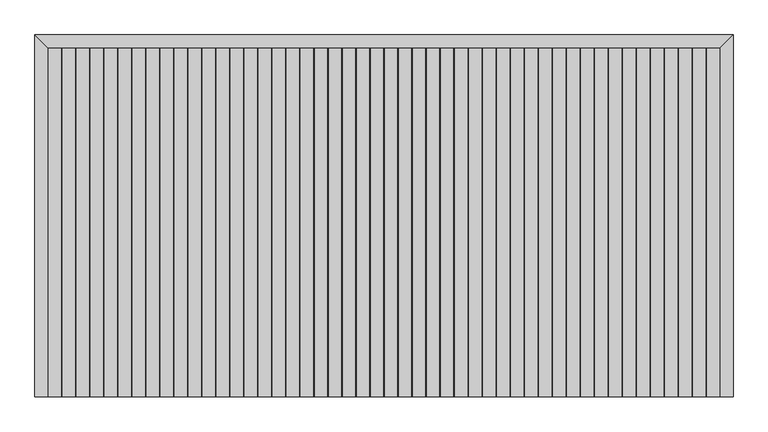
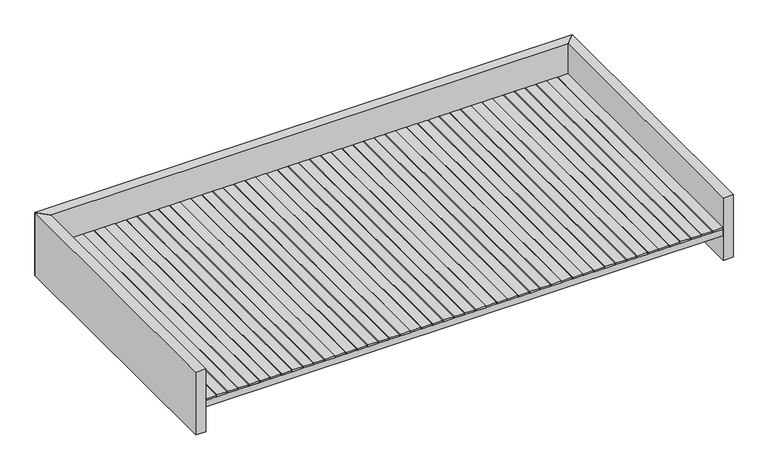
"""IFC4 building model written with IfcOpenShell, lengths in millimetres: proxy geometry, FOUNDATION^ADMIN 1_42x81 STRAIGHT FRONT TRANSACTION-PARTS SOLID."""

from ifc_helpers import new_model, si_unit, frame, origin, origin_with_axes, place, context, project, spatial, polyline, outline, extrude, source, transform, mapped, element, save


def generic_models_9b6093a6(model_context):
    return source(origin(), model_context, "Body", "SweptSolid", [
        extrude(outline(polyline([(39.6875, 1028.7), (77.7875, 1028.7), (77.7875, 0.0), (39.6875, 0.0), (39.6875, 1028.7)])), frame((0.0, 0.0, 127.0), z_axis=(0.0, 0.0, 1.0), x_axis=(1.0, 0.0, 0.0)), (0.0, 0.0, 1.0), 6.35),
        extrude(outline(polyline([(80.9625, 1028.7), (119.0625, 1028.7), (119.0625, 0.0), (80.9625, 0.0), (80.9625, 1028.7)])), frame((0.0, 0.0, 127.0), z_axis=(0.0, 0.0, 1.0), x_axis=(1.0, 0.0, 0.0)), (0.0, 0.0, 1.0), 6.35),
        extrude(outline(polyline([(122.2375, 1028.7), (160.3375, 1028.7), (160.3375, 0.0), (122.2375, 0.0), (122.2375, 1028.7)])), frame((0.0, 0.0, 127.0), z_axis=(0.0, 0.0, 1.0), x_axis=(1.0, 0.0, 0.0)), (0.0, 0.0, 1.0), 6.35),
        extrude(outline(polyline([(163.5125, 1028.7), (201.6125, 1028.7), (201.6125, 0.0), (163.5125, 0.0), (163.5125, 1028.7)])), frame((0.0, 0.0, 127.0), z_axis=(0.0, 0.0, 1.0), x_axis=(1.0, 0.0, 0.0)), (0.0, 0.0, 1.0), 6.35),
        extrude(outline(polyline([(204.7875, 1028.7), (242.8875, 1028.7), (242.8875, 0.0), (204.7875, 0.0), (204.7875, 1028.7)])), frame((0.0, 0.0, 127.0), z_axis=(0.0, 0.0, 1.0), x_axis=(1.0, 0.0, 0.0)), (0.0, 0.0, 1.0), 6.35),
        extrude(outline(polyline([(246.0625, 1028.7), (284.1625, 1028.7), (284.1625, 0.0), (246.0625, 0.0), (246.0625, 1028.7)])), frame((0.0, 0.0, 127.0), z_axis=(0.0, 0.0, 1.0), x_axis=(1.0, 0.0, 0.0)), (0.0, 0.0, 1.0), 6.35),
        extrude(outline(polyline([(287.3375, 1028.7), (325.4375, 1028.7), (325.4375, 0.0), (287.3375, 0.0), (287.3375, 1028.7)])), frame((0.0, 0.0, 127.0), z_axis=(0.0, 0.0, 1.0), x_axis=(1.0, 0.0, 0.0)), (0.0, 0.0, 1.0), 6.35),
        extrude(outline(polyline([(328.6125, 1028.7), (366.7125, 1028.7), (366.7125, 0.0), (328.6125, 0.0), (328.6125, 1028.7)])), frame((0.0, 0.0, 127.0), z_axis=(0.0, 0.0, 1.0), x_axis=(1.0, 0.0, 0.0)), (0.0, 0.0, 1.0), 6.35),
        extrude(outline(polyline([(369.8875, 1028.7), (407.9875, 1028.7), (407.9875, 0.0), (369.8875, 0.0), (369.8875, 1028.7)])), frame((0.0, 0.0, 127.0), z_axis=(0.0, 0.0, 1.0), x_axis=(1.0, 0.0, 0.0)), (0.0, 0.0, 1.0), 6.35),
        extrude(outline(polyline([(411.1625, 1028.7), (449.2625, 1028.7), (449.2625, 0.0), (411.1625, 0.0), (411.1625, 1028.7)])), frame((0.0, 0.0, 127.0), z_axis=(0.0, 0.0, 1.0), x_axis=(1.0, 0.0, 0.0)), (0.0, 0.0, 1.0), 6.35),
        extrude(outline(polyline([(452.4375, 1028.7), (490.5375, 1028.7), (490.5375, 0.0), (452.4375, 0.0), (452.4375, 1028.7)])), frame((0.0, 0.0, 127.0), z_axis=(0.0, 0.0, 1.0), x_axis=(1.0, 0.0, 0.0)), (0.0, 0.0, 1.0), 6.35),
        extrude(outline(polyline([(493.7125, 1028.7), (531.8125, 1028.7), (531.8125, 0.0), (493.7125, 0.0), (493.7125, 1028.7)])), frame((0.0, 0.0, 127.0), z_axis=(0.0, 0.0, 1.0), x_axis=(1.0, 0.0, 0.0)), (0.0, 0.0, 1.0), 6.35),
        extrude(outline(polyline([(534.9875, 1028.7), (573.0875, 1028.7), (573.0875, 0.0), (534.9875, 0.0), (534.9875, 1028.7)])), frame((0.0, 0.0, 127.0), z_axis=(0.0, 0.0, 1.0), x_axis=(1.0, 0.0, 0.0)), (0.0, 0.0, 1.0), 6.35),
        extrude(outline(polyline([(576.2625, 1028.7), (614.3625, 1028.7), (614.3625, 0.0), (576.2625, 0.0), (576.2625, 1028.7)])), frame((0.0, 0.0, 127.0), z_axis=(0.0, 0.0, 1.0), x_axis=(1.0, 0.0, 0.0)), (0.0, 0.0, 1.0), 6.35),
        extrude(outline(polyline([(617.5375, 1028.7), (655.6375, 1028.7), (655.6375, 0.0), (617.5375, 0.0), (617.5375, 1028.7)])), frame((0.0, 0.0, 127.0), z_axis=(0.0, 0.0, 1.0), x_axis=(1.0, 0.0, 0.0)), (0.0, 0.0, 1.0), 6.35),
        extrude(outline(polyline([(658.8125, 1028.7), (696.9125, 1028.7), (696.9125, 0.0), (658.8125, 0.0), (658.8125, 1028.7)])), frame((0.0, 0.0, 127.0), z_axis=(0.0, 0.0, 1.0), x_axis=(1.0, 0.0, 0.0)), (0.0, 0.0, 1.0), 6.35),
        extrude(outline(polyline([(700.0875, 1028.7), (738.1875, 1028.7), (738.1875, 0.0), (700.0875, 0.0), (700.0875, 1028.7)])), frame((0.0, 0.0, 127.0), z_axis=(0.0, 0.0, 1.0), x_axis=(1.0, 0.0, 0.0)), (0.0, 0.0, 1.0), 6.35),
        extrude(outline(polyline([(741.3625, 1028.7), (779.4625, 1028.7), (779.4625, 0.0), (741.3625, 0.0), (741.3625, 1028.7)])), frame((0.0, 0.0, 127.0), z_axis=(0.0, 0.0, 1.0), x_axis=(1.0, 0.0, 0.0)), (0.0, 0.0, 1.0), 6.35),
        extrude(outline(polyline([(782.6375, 1028.7), (820.7375, 1028.7), (820.7375, 0.0), (782.6375, 0.0), (782.6375, 1028.7)])), frame((0.0, 0.0, 127.0), z_axis=(0.0, 0.0, 1.0), x_axis=(1.0, 0.0, 0.0)), (0.0, 0.0, 1.0), 6.35),
        extrude(outline(polyline([(823.9125, 1028.7), (862.0125, 1028.7), (862.0125, 0.0), (823.9125, 0.0), (823.9125, 1028.7)])), frame((0.0, 0.0, 127.0), z_axis=(0.0, 0.0, 1.0), x_axis=(1.0, 0.0, 0.0)), (0.0, 0.0, 1.0), 6.35),
        extrude(outline(polyline([(865.1875, 1028.7), (903.2875, 1028.7), (903.2875, 0.0), (865.1875, 0.0), (865.1875, 1028.7)])), frame((0.0, 0.0, 127.0), z_axis=(0.0, 0.0, 1.0), x_axis=(1.0, 0.0, 0.0)), (0.0, 0.0, 1.0), 6.35),
        extrude(outline(polyline([(906.4625, 1028.7), (944.5625, 1028.7), (944.5625, 0.0), (906.4625, 0.0), (906.4625, 1028.7)])), frame((0.0, 0.0, 127.0), z_axis=(0.0, 0.0, 1.0), x_axis=(1.0, 0.0, 0.0)), (0.0, 0.0, 1.0), 6.35),
        extrude(outline(polyline([(947.7375, 1028.7), (985.8375, 1028.7), (985.8375, 0.0), (947.7375, 0.0), (947.7375, 1028.7)])), frame((0.0, 0.0, 127.0), z_axis=(0.0, 0.0, 1.0), x_axis=(1.0, 0.0, 0.0)), (0.0, 0.0, 1.0), 6.35),
        extrude(outline(polyline([(989.0125, 1028.7), (1027.1125, 1028.7), (1027.1125, 0.0), (989.0125, 0.0), (989.0125, 1028.7)])), frame((0.0, 0.0, 127.0), z_axis=(0.0, 0.0, 1.0), x_axis=(1.0, 0.0, 0.0)), (0.0, 0.0, 1.0), 6.35),
        extrude(outline(polyline([(1030.2875, 1028.7), (1068.3875, 1028.7), (1068.3875, 0.0), (1030.2875, 0.0), (1030.2875, 1028.7)])), frame((0.0, 0.0, 127.0), z_axis=(0.0, 0.0, 1.0), x_axis=(1.0, 0.0, 0.0)), (0.0, 0.0, 1.0), 6.35),
        extrude(outline(polyline([(1071.5625, 1028.7), (1109.6625, 1028.7), (1109.6625, 0.0), (1071.5625, 0.0), (1071.5625, 1028.7)])), frame((0.0, 0.0, 127.0), z_axis=(0.0, 0.0, 1.0), x_axis=(1.0, 0.0, 0.0)), (0.0, 0.0, 1.0), 6.35),
        extrude(outline(polyline([(1112.8375, 1028.7), (1150.9375, 1028.7), (1150.9375, 0.0), (1112.8375, 0.0), (1112.8375, 1028.7)])), frame((0.0, 0.0, 127.0), z_axis=(0.0, 0.0, 1.0), x_axis=(1.0, 0.0, 0.0)), (0.0, 0.0, 1.0), 6.35),
        extrude(outline(polyline([(1154.1125, 1028.7), (1192.2125, 1028.7), (1192.2125, 0.0), (1154.1125, 0.0), (1154.1125, 1028.7)])), frame((0.0, 0.0, 127.0), z_axis=(0.0, 0.0, 1.0), x_axis=(1.0, 0.0, 0.0)), (0.0, 0.0, 1.0), 6.35),
        extrude(outline(polyline([(1195.3875, 1028.7), (1233.4875, 1028.7), (1233.4875, 0.0), (1195.3875, 0.0), (1195.3875, 1028.7)])), frame((0.0, 0.0, 127.0), z_axis=(0.0, 0.0, 1.0), x_axis=(1.0, 0.0, 0.0)), (0.0, 0.0, 1.0), 6.35),
        extrude(outline(polyline([(1236.6625, 1028.7), (1274.7625, 1028.7), (1274.7625, 0.0), (1236.6625, 0.0), (1236.6625, 1028.7)])), frame((0.0, 0.0, 127.0), z_axis=(0.0, 0.0, 1.0), x_axis=(1.0, 0.0, 0.0)), (0.0, 0.0, 1.0), 6.35),
        extrude(outline(polyline([(1277.9375, 1028.7), (1316.0375, 1028.7), (1316.0375, 0.0), (1277.9375, 0.0), (1277.9375, 1028.7)])), frame((0.0, 0.0, 127.0), z_axis=(0.0, 0.0, 1.0), x_axis=(1.0, 0.0, 0.0)), (0.0, 0.0, 1.0), 6.35),
        extrude(outline(polyline([(1319.2125, 1028.7), (1357.3125, 1028.7), (1357.3125, 0.0), (1319.2125, 0.0), (1319.2125, 1028.7)])), frame((0.0, 0.0, 127.0), z_axis=(0.0, 0.0, 1.0), x_axis=(1.0, 0.0, 0.0)), (0.0, 0.0, 1.0), 6.35),
        extrude(outline(polyline([(1360.4875, 1028.7), (1398.5875, 1028.7), (1398.5875, 0.0), (1360.4875, 0.0), (1360.4875, 1028.7)])), frame((0.0, 0.0, 127.0), z_axis=(0.0, 0.0, 1.0), x_axis=(1.0, 0.0, 0.0)), (0.0, 0.0, 1.0), 6.35),
        extrude(outline(polyline([(1401.7625, 1028.7), (1439.8625, 1028.7), (1439.8625, 0.0), (1401.7625, 0.0), (1401.7625, 1028.7)])), frame((0.0, 0.0, 127.0), z_axis=(0.0, 0.0, 1.0), x_axis=(1.0, 0.0, 0.0)), (0.0, 0.0, 1.0), 6.35),
        extrude(outline(polyline([(1443.0375, 1028.7), (1481.1375, 1028.7), (1481.1375, 0.0), (1443.0375, 0.0), (1443.0375, 1028.7)])), frame((0.0, 0.0, 127.0), z_axis=(0.0, 0.0, 1.0), x_axis=(1.0, 0.0, 0.0)), (0.0, 0.0, 1.0), 6.35),
        extrude(outline(polyline([(1484.3125, 1028.7), (1522.4125, 1028.7), (1522.4125, 0.0), (1484.3125, 0.0), (1484.3125, 1028.7)])), frame((0.0, 0.0, 127.0), z_axis=(0.0, 0.0, 1.0), x_axis=(1.0, 0.0, 0.0)), (0.0, 0.0, 1.0), 6.35),
        extrude(outline(polyline([(1525.5875, 1028.7), (1563.6875, 1028.7), (1563.6875, 0.0), (1525.5875, 0.0), (1525.5875, 1028.7)])), frame((0.0, 0.0, 127.0), z_axis=(0.0, 0.0, 1.0), x_axis=(1.0, 0.0, 0.0)), (0.0, 0.0, 1.0), 6.35),
        extrude(outline(polyline([(1566.8625, 1028.7), (1604.9625, 1028.7), (1604.9625, 0.0), (1566.8625, 0.0), (1566.8625, 1028.7)])), frame((0.0, 0.0, 127.0), z_axis=(0.0, 0.0, 1.0), x_axis=(1.0, 0.0, 0.0)), (0.0, 0.0, 1.0), 6.35),
        extrude(outline(polyline([(1608.1375, 1028.7), (1646.2375, 1028.7), (1646.2375, 0.0), (1608.1375, 0.0), (1608.1375, 1028.7)])), frame((0.0, 0.0, 127.0), z_axis=(0.0, 0.0, 1.0), x_axis=(1.0, 0.0, 0.0)), (0.0, 0.0, 1.0), 6.35),
        extrude(outline(polyline([(1649.4125, 1028.7), (1687.5125, 1028.7), (1687.5125, 0.0), (1649.4125, 0.0), (1649.4125, 1028.7)])), frame((0.0, 0.0, 127.0), z_axis=(0.0, 0.0, 1.0), x_axis=(1.0, 0.0, 0.0)), (0.0, 0.0, 1.0), 6.35),
        extrude(outline(polyline([(1690.6875, 1028.7), (1728.7875, 1028.7), (1728.7875, 0.0), (1690.6875, 0.0), (1690.6875, 1028.7)])), frame((0.0, 0.0, 127.0), z_axis=(0.0, 0.0, 1.0), x_axis=(1.0, 0.0, 0.0)), (0.0, 0.0, 1.0), 6.35),
        extrude(outline(polyline([(1731.9625, 1028.7), (1770.0625, 1028.7), (1770.0625, 0.0), (1731.9625, 0.0), (1731.9625, 1028.7)])), frame((0.0, 0.0, 127.0), z_axis=(0.0, 0.0, 1.0), x_axis=(1.0, 0.0, 0.0)), (0.0, 0.0, 1.0), 6.35),
        extrude(outline(polyline([(1773.2375, 1028.7), (1811.3375, 1028.7), (1811.3375, 0.0), (1773.2375, 0.0), (1773.2375, 1028.7)])), frame((0.0, 0.0, 127.0), z_axis=(0.0, 0.0, 1.0), x_axis=(1.0, 0.0, 0.0)), (0.0, 0.0, 1.0), 6.35),
        extrude(outline(polyline([(1814.5125, 1028.7), (1852.6125, 1028.7), (1852.6125, 0.0), (1814.5125, 0.0), (1814.5125, 1028.7)])), frame((0.0, 0.0, 127.0), z_axis=(0.0, 0.0, 1.0), x_axis=(1.0, 0.0, 0.0)), (0.0, 0.0, 1.0), 6.35),
        extrude(outline(polyline([(1855.7875, 1028.7), (1893.8875, 1028.7), (1893.8875, 0.0), (1855.7875, 0.0), (1855.7875, 1028.7)])), frame((0.0, 0.0, 127.0), z_axis=(0.0, 0.0, 1.0), x_axis=(1.0, 0.0, 0.0)), (0.0, 0.0, 1.0), 6.35),
        extrude(outline(polyline([(1897.0625, 1028.7), (1935.1625, 1028.7), (1935.1625, 0.0), (1897.0625, 0.0), (1897.0625, 1028.7)])), frame((0.0, 0.0, 127.0), z_axis=(0.0, 0.0, 1.0), x_axis=(1.0, 0.0, 0.0)), (0.0, 0.0, 1.0), 6.35),
        extrude(outline(polyline([(1938.3375, 1028.7), (1976.4375, 1028.7), (1976.4375, 0.0), (1938.3375, 0.0), (1938.3375, 1028.7)])), frame((0.0, 0.0, 127.0), z_axis=(0.0, 0.0, 1.0), x_axis=(1.0, 0.0, 0.0)), (0.0, 0.0, 1.0), 6.35),
        extrude(outline(polyline([(1979.6125, 1028.7), (2017.7125, 1028.7), (2017.7125, 0.0), (1979.6125, 0.0), (1979.6125, 1028.7)])), frame((0.0, 0.0, 127.0), z_axis=(0.0, 0.0, 1.0), x_axis=(1.0, 0.0, 0.0)), (0.0, 0.0, 1.0), 6.35),
        extrude(outline(polyline([(2057.4, 0.0), (2019.3, 0.0), (2019.3, 1028.7), (2057.4, 1066.8), (2057.4, 0.0)])), origin_with_axes(), (0.0, 0.0, 1.0), 254.0),
        extrude(outline(polyline([(0.0, 1066.8), (2057.4, 1066.8), (2019.3, 1028.7), (38.1, 1028.7), (0.0, 1066.8)])), origin_with_axes(), (0.0, 0.0, 1.0), 254.0),
        extrude(outline(polyline([(38.1, 0.0), (0.0, 0.0), (0.0, 1066.8), (38.1, 1028.7), (38.1, 0.0)])), origin_with_axes(), (0.0, 0.0, 1.0), 254.0),
        extrude(outline(polyline([(2019.3, 1028.7), (2019.3, 0.0), (38.1, 0.0), (38.1, 1028.7), (2019.3, 1028.7)])), frame((0.0, 0.0, 101.6), z_axis=(0.0, 0.0, 1.0), x_axis=(1.0, 0.0, 0.0)), (0.0, 0.0, 1.0), 25.4),
    ])


if __name__ == "__main__":
    model = new_model("IFC4")
    model_context = context("Model", 3, world=origin())
    ifc_project = project(units=[si_unit("LENGTHUNIT", "METRE", prefix="MILLI")], contexts=[model_context])
    site = spatial("IfcSite", under=ifc_project)
    building = spatial("IfcBuilding", under=site)
    placement = place(None, origin())
    generic_models_shape = generic_models_9b6093a6(model_context)
    element("IfcBuildingElementProxy", 1, Name="FOUNDATION^ADMIN 1_42x81 STRAIGHT FRONT TRANSACTION-PARTS SOLID", ObjectType="FOUNDATION^ADMIN 1_42x81 STRAIGHT FRONT TRANSACTION-PARTS SOLID", at=placement, inside=building, context=model_context, shape_type="MappedRepresentation", body=[
        mapped(generic_models_shape, transform((0.0, 0.0, 0.0), x_axis=(1.0, 0.0, 0.0), y_axis=(0.0, 1.0, 0.0), z_axis=(0.0, 0.0, 1.0))),
    ])
    save(model, "model.ifc")
